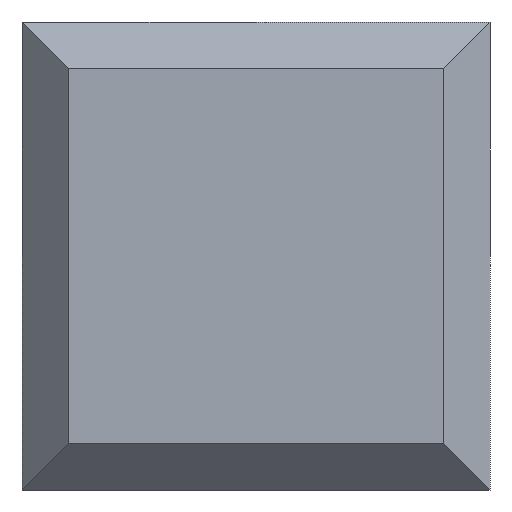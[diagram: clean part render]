
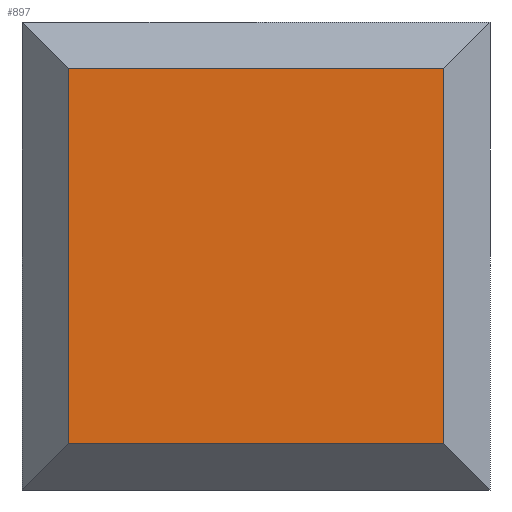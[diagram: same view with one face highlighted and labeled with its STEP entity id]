
A CAD part, front view. The second image highlights one B-rep face of the part: STEP entity #897.
In plain terms, the highlighted planar face has unit normal (0, -1, 0).
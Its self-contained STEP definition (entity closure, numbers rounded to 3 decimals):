
#38 = LINE ( 'NONE', #270, #443 ) ;
#78 = DIRECTION ( 'NONE',  ( 1., 0., 0. ) ) ;
#83 = CARTESIAN_POINT ( 'NONE',  ( 5., -4., 4. ) ) ;
#107 = CARTESIAN_POINT ( 'NONE',  ( -4., -4., 4. ) ) ;
#162 = DIRECTION ( 'NONE',  ( -1., 0., 0. ) ) ;
#169 = FACE_OUTER_BOUND ( 'NONE', #473, .T. ) ;
#175 = CARTESIAN_POINT ( 'NONE',  ( 5., -4., -4. ) ) ;
#212 = VECTOR ( 'NONE', #162, 1000. ) ;
#222 = ORIENTED_EDGE ( 'NONE', *, *, #646, .F. ) ;
#224 = ORIENTED_EDGE ( 'NONE', *, *, #824, .F. ) ;
#233 = VERTEX_POINT ( 'NONE', #681 ) ;
#243 = DIRECTION ( 'NONE',  ( 0., 0., 1. ) ) ;
#250 = CARTESIAN_POINT ( 'NONE',  ( 4., -4., 4. ) ) ;
#270 = CARTESIAN_POINT ( 'NONE',  ( 4., -4., 4. ) ) ;
#276 = LINE ( 'NONE', #467, #836 ) ;
#322 = AXIS2_PLACEMENT_3D ( 'NONE', #547, #465, #454 ) ;
#332 = VERTEX_POINT ( 'NONE', #250 ) ;
#372 = VECTOR ( 'NONE', #78, 1000. ) ;
#422 = VERTEX_POINT ( 'NONE', #107 ) ;
#443 = VECTOR ( 'NONE', #243, 1000. ) ;
#454 = DIRECTION ( 'NONE',  ( -1., 0., 0. ) ) ;
#464 = LINE ( 'NONE', #175, #212 ) ;
#465 = DIRECTION ( 'NONE',  ( 0., -1., 0. ) ) ;
#467 = CARTESIAN_POINT ( 'NONE',  ( -4., -4., 5. ) ) ;
#473 = EDGE_LOOP ( 'NONE', ( #923, #224, #222, #632 ) ) ;
#538 = VERTEX_POINT ( 'NONE', #733 ) ;
#547 = CARTESIAN_POINT ( 'NONE',  ( 4., -4., 4. ) ) ;
#579 = DIRECTION ( 'NONE',  ( 0., 0., 1. ) ) ;
#606 = EDGE_CURVE ( 'NONE', #538, #332, #38, .T. ) ;
#632 = ORIENTED_EDGE ( 'NONE', *, *, #606, .T. ) ;
#646 = EDGE_CURVE ( 'NONE', #538, #233, #464, .T. ) ;
#681 = CARTESIAN_POINT ( 'NONE',  ( -4., -4., -4. ) ) ;
#693 = EDGE_CURVE ( 'NONE', #422, #332, #946, .T. ) ;
#733 = CARTESIAN_POINT ( 'NONE',  ( 4., -4., -4. ) ) ;
#817 = PLANE ( 'NONE',  #322 ) ;
#824 = EDGE_CURVE ( 'NONE', #233, #422, #276, .T. ) ;
#836 = VECTOR ( 'NONE', #579, 1000. ) ;
#897 = ADVANCED_FACE ( 'NONE', ( #169 ), #817, .T. ) ;
#923 = ORIENTED_EDGE ( 'NONE', *, *, #693, .F. ) ;
#946 = LINE ( 'NONE', #83, #372 ) ;
